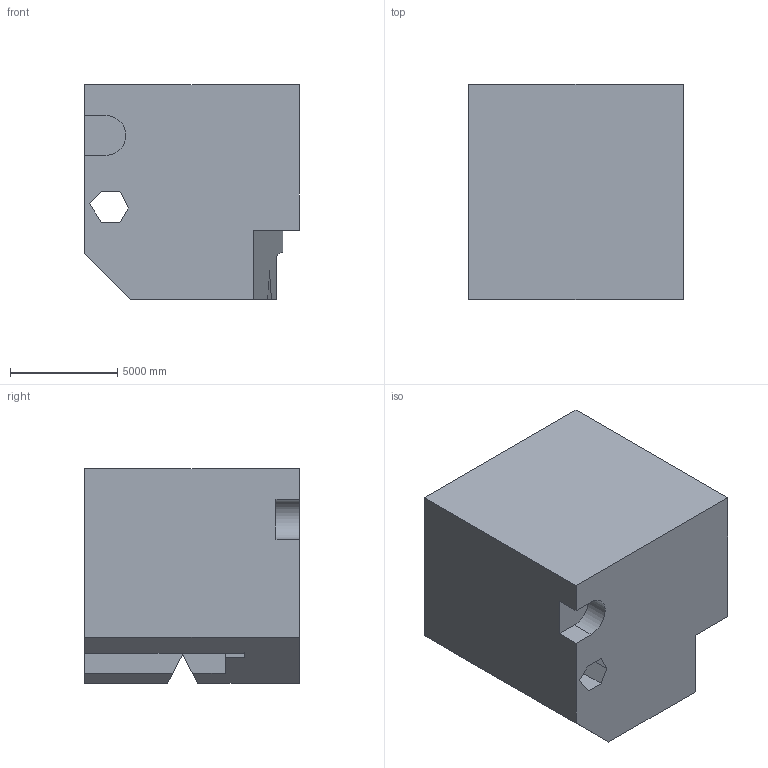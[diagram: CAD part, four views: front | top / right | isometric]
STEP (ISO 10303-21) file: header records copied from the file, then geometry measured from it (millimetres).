
FILE_DESCRIPTION (( 'STEP AP203' ), '1' );
FILE_NAME ('188.STEP', '2022-09-05T16:04:12', ( 'user' ), ( '' ), 'SwSTEP 2.0', 'SolidWorks 2021', '' );
FILE_SCHEMA (( 'CONFIG_CONTROL_DESIGN' ));
Length unit declared in the file: centimetre
Products named in the file (1): 188
Bounding box: 10000 x 10000 x 10000 mm (x, y, z)
Volume: 888943323536.5 mm3; surface area: 652105651.7 mm2
Topology: 1 solids, 1 shells, 40 faces, 114 edges, 76 vertices
Faces by surface type: plane 37, cylinder 3
Entity records: 1363 total; most frequent: CARTESIAN_POINT 237, ORIENTED_EDGE 228, DIRECTION 198, EDGE_CURVE 114, VECTOR 108, LINE 108, VERTEX_POINT 76, AXIS2_PLACEMENT_3D 45
